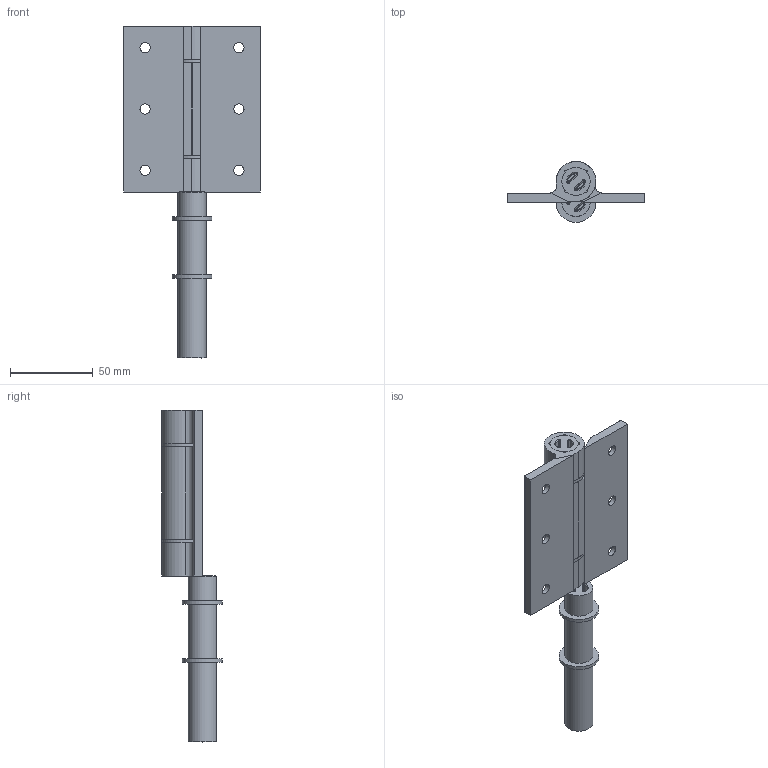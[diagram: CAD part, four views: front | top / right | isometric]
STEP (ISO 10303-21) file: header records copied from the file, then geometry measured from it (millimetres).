
FILE_DESCRIPTION( ( 'Unknown' ), '1' );
FILE_NAME( 'N:/HoKon Zeichnungen/F-41 Federscharniere/6876/6876.stp', 'Unknown', ( 'Unknown' ), ( 'Unknown' ), 'PSStep 14.0', 'Unknown', ' ' );
FILE_SCHEMA( ( 'AUTOMOTIVE_DESIGN { 1 0 10303 214 1 1 1 1 }' ) );
Length unit declared in the file: millimetre
Products named in the file (8): Assem1; 6876; 6876_0; 6876_1; 6876_2; 6876_3; 6876_4; 6876_5
Bounding box: 82.5 x 36.49 x 200 mm (x, y, z)
Volume: 157592.6 mm3; surface area: 74802 mm2
Topology: 14 solids, 18 shells, 294 faces, 668 edges, 414 vertices
Faces by surface type: plane 108, cylinder 106, cone 48, torus 16, bspline 16
Full cylindrical faces by diameter (mm): 6.2 x12, 13 x12, 17 x6, 24 x4
Entity records: 7435 total; most frequent: CARTESIAN_POINT 957, DIRECTION 708, ORIENTED_EDGE 590, PRESENTATION_STYLE_ASSIGNMENT 581, COLOUR_RGB 581, STYLED_ITEM 434, CURVE_STYLE 434, DRAUGHTING_PRE_DEFINED_CURVE_FONT 434
